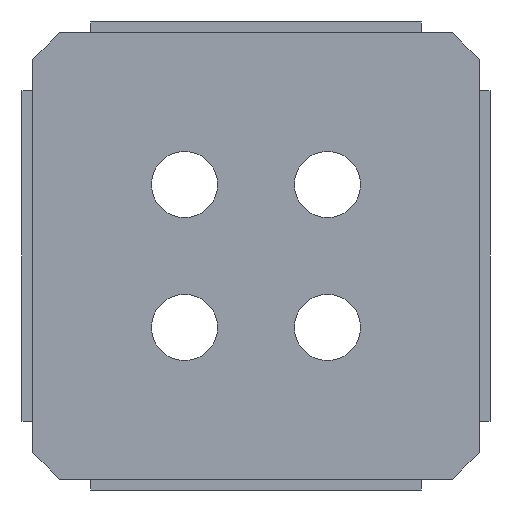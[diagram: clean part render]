
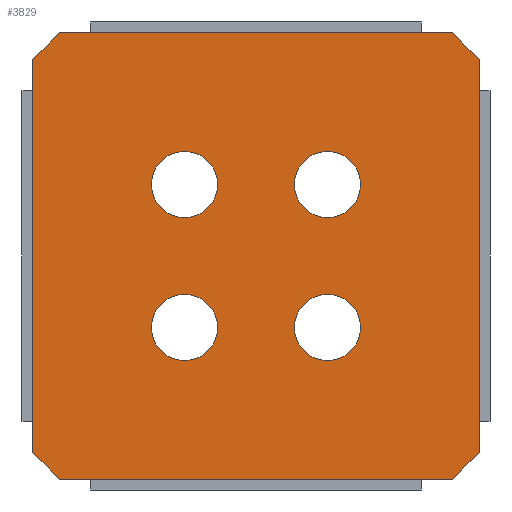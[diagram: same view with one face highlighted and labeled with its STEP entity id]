
A CAD part, front view. The second image highlights one B-rep face of the part: STEP entity #3829.
In plain terms, the highlighted planar face has unit normal (0, -1, 0).
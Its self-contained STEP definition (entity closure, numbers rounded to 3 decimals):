
#5 = DIRECTION ( 'NONE',  ( 0., 0., -1. ) ) ;
#87 = VECTOR ( 'NONE', #4504, 1000. ) ;
#124 = EDGE_LOOP ( 'NONE', ( #2231, #1198 ) ) ;
#160 = VERTEX_POINT ( 'NONE', #5424 ) ;
#169 = FACE_BOUND ( 'NONE', #3953, .T. ) ;
#184 = CARTESIAN_POINT ( 'NONE',  ( 4., -1., 4. ) ) ;
#232 = AXIS2_PLACEMENT_3D ( 'NONE', #392, #5141, #1421 ) ;
#253 = CARTESIAN_POINT ( 'NONE',  ( -12.5, -1., -11. ) ) ;
#263 = LINE ( 'NONE', #1482, #1818 ) ;
#288 = CIRCLE ( 'NONE', #5870, 1.85 ) ;
#344 = ORIENTED_EDGE ( 'NONE', *, *, #3564, .F. ) ;
#392 = CARTESIAN_POINT ( 'NONE',  ( -4., -1., 4. ) ) ;
#477 = VERTEX_POINT ( 'NONE', #4215 ) ;
#487 = DIRECTION ( 'NONE',  ( 0., -1., 0. ) ) ;
#516 = CARTESIAN_POINT ( 'NONE',  ( 4., -1., 4. ) ) ;
#520 = CARTESIAN_POINT ( 'NONE',  ( -12.5, -1., -11. ) ) ;
#599 = CARTESIAN_POINT ( 'NONE',  ( -11., -1., -12.5 ) ) ;
#620 = ORIENTED_EDGE ( 'NONE', *, *, #4398, .F. ) ;
#638 = VECTOR ( 'NONE', #1285, 1000. ) ;
#661 = CARTESIAN_POINT ( 'NONE',  ( -4., -1., 4. ) ) ;
#684 = DIRECTION ( 'NONE',  ( 0., 0., -1. ) ) ;
#751 = ORIENTED_EDGE ( 'NONE', *, *, #5004, .F. ) ;
#790 = DIRECTION ( 'NONE',  ( 0., 0., 1. ) ) ;
#829 = EDGE_CURVE ( 'NONE', #160, #6157, #3962, .T. ) ;
#838 = ORIENTED_EDGE ( 'NONE', *, *, #6053, .T. ) ;
#882 = FACE_BOUND ( 'NONE', #124, .T. ) ;
#888 = AXIS2_PLACEMENT_3D ( 'NONE', #1916, #1004, #5682 ) ;
#1004 = DIRECTION ( 'NONE',  ( 0., -1., 0. ) ) ;
#1013 = DIRECTION ( 'NONE',  ( 0., 0., -1. ) ) ;
#1048 = VERTEX_POINT ( 'NONE', #6100 ) ;
#1057 = EDGE_CURVE ( 'NONE', #4205, #1048, #3331, .T. ) ;
#1153 = CARTESIAN_POINT ( 'NONE',  ( 11., -1., 12.5 ) ) ;
#1177 = LINE ( 'NONE', #6025, #4811 ) ;
#1198 = ORIENTED_EDGE ( 'NONE', *, *, #4188, .F. ) ;
#1285 = DIRECTION ( 'NONE',  ( 1., 0., 0. ) ) ;
#1336 = CARTESIAN_POINT ( 'NONE',  ( 4., -1., 2.15 ) ) ;
#1388 = AXIS2_PLACEMENT_3D ( 'NONE', #4111, #3214, #790 ) ;
#1421 = DIRECTION ( 'NONE',  ( 0., 0., -1. ) ) ;
#1462 = DIRECTION ( 'NONE',  ( -0.707, 0., 0.707 ) ) ;
#1482 = CARTESIAN_POINT ( 'NONE',  ( 12.5, -1., 12.5 ) ) ;
#1487 = LINE ( 'NONE', #520, #2745 ) ;
#1506 = DIRECTION ( 'NONE',  ( 0., -1., 0. ) ) ;
#1511 = VERTEX_POINT ( 'NONE', #1336 ) ;
#1538 = ORIENTED_EDGE ( 'NONE', *, *, #1903, .F. ) ;
#1552 = ORIENTED_EDGE ( 'NONE', *, *, #5754, .T. ) ;
#1651 = LINE ( 'NONE', #2601, #87 ) ;
#1695 = VERTEX_POINT ( 'NONE', #253 ) ;
#1758 = ORIENTED_EDGE ( 'NONE', *, *, #829, .T. ) ;
#1818 = VECTOR ( 'NONE', #5, 1000. ) ;
#1892 = DIRECTION ( 'NONE',  ( 0.707, 0., -0.707 ) ) ;
#1903 = EDGE_CURVE ( 'NONE', #3828, #3210, #1177, .T. ) ;
#1916 = CARTESIAN_POINT ( 'NONE',  ( 4., -1., -4. ) ) ;
#1949 = VECTOR ( 'NONE', #1462, 1000. ) ;
#1967 = EDGE_CURVE ( 'NONE', #4922, #1695, #2439, .T. ) ;
#2208 = DIRECTION ( 'NONE',  ( 0., -1., 0. ) ) ;
#2231 = ORIENTED_EDGE ( 'NONE', *, *, #4082, .F. ) ;
#2317 = LINE ( 'NONE', #3375, #1949 ) ;
#2345 = EDGE_CURVE ( 'NONE', #5253, #4935, #288, .T. ) ;
#2439 = LINE ( 'NONE', #5308, #5410 ) ;
#2522 = CARTESIAN_POINT ( 'NONE',  ( -4., -1., -5.85 ) ) ;
#2601 = CARTESIAN_POINT ( 'NONE',  ( -11., -1., 12.5 ) ) ;
#2708 = VERTEX_POINT ( 'NONE', #5811 ) ;
#2745 = VECTOR ( 'NONE', #1892, 1000. ) ;
#2827 = CARTESIAN_POINT ( 'NONE',  ( 12.5, -1., -11. ) ) ;
#2832 = CARTESIAN_POINT ( 'NONE',  ( -4., -1., 5.85 ) ) ;
#3158 = CARTESIAN_POINT ( 'NONE',  ( -4., -1., -2.15 ) ) ;
#3181 = CIRCLE ( 'NONE', #6134, 1.85 ) ;
#3210 = VERTEX_POINT ( 'NONE', #1153 ) ;
#3214 = DIRECTION ( 'NONE',  ( 0., 1., 0. ) ) ;
#3323 = CARTESIAN_POINT ( 'NONE',  ( -4., -1., -4. ) ) ;
#3329 = DIRECTION ( 'NONE',  ( 0., 0., -1. ) ) ;
#3331 = CIRCLE ( 'NONE', #232, 1.85 ) ;
#3375 = CARTESIAN_POINT ( 'NONE',  ( 11., -1., 12.5 ) ) ;
#3400 = FACE_BOUND ( 'NONE', #4206, .T. ) ;
#3434 = CARTESIAN_POINT ( 'NONE',  ( -12.5, -1., 11. ) ) ;
#3442 = DIRECTION ( 'NONE',  ( 0., -1., 0. ) ) ;
#3509 = AXIS2_PLACEMENT_3D ( 'NONE', #661, #3520, #684 ) ;
#3520 = DIRECTION ( 'NONE',  ( 0., -1., 0. ) ) ;
#3564 = EDGE_CURVE ( 'NONE', #4935, #5253, #3181, .T. ) ;
#3581 = PLANE ( 'NONE',  #1388 ) ;
#3603 = CARTESIAN_POINT ( 'NONE',  ( -11., -1., 12.5 ) ) ;
#3634 = DIRECTION ( 'NONE',  ( 0., 0., -1. ) ) ;
#3637 = EDGE_LOOP ( 'NONE', ( #751, #4541 ) ) ;
#3819 = ORIENTED_EDGE ( 'NONE', *, *, #2345, .F. ) ;
#3828 = VERTEX_POINT ( 'NONE', #3603 ) ;
#3829 = ADVANCED_FACE ( 'NONE', ( #3400, #882, #169, #5145, #5532 ), #3581, .F. ) ;
#3836 = EDGE_CURVE ( 'NONE', #4921, #160, #4340, .T. ) ;
#3953 = EDGE_LOOP ( 'NONE', ( #620, #4929 ) ) ;
#3962 = LINE ( 'NONE', #4948, #4043 ) ;
#3967 = VERTEX_POINT ( 'NONE', #5591 ) ;
#3998 = CARTESIAN_POINT ( 'NONE',  ( 12.5, -1., 11. ) ) ;
#4043 = VECTOR ( 'NONE', #4547, 1000. ) ;
#4057 = AXIS2_PLACEMENT_3D ( 'NONE', #4302, #1506, #1013 ) ;
#4082 = EDGE_CURVE ( 'NONE', #3967, #2708, #6060, .T. ) ;
#4090 = CARTESIAN_POINT ( 'NONE',  ( -12.5, -1., -12.5 ) ) ;
#4109 = EDGE_CURVE ( 'NONE', #477, #1511, #4499, .T. ) ;
#4110 = EDGE_CURVE ( 'NONE', #4562, #6157, #263, .T. ) ;
#4111 = CARTESIAN_POINT ( 'NONE',  ( -12.5, -1., 12.5 ) ) ;
#4188 = EDGE_CURVE ( 'NONE', #2708, #3967, #6056, .T. ) ;
#4205 = VERTEX_POINT ( 'NONE', #2832 ) ;
#4206 = EDGE_LOOP ( 'NONE', ( #344, #3819 ) ) ;
#4215 = CARTESIAN_POINT ( 'NONE',  ( 4., -1., 5.85 ) ) ;
#4302 = CARTESIAN_POINT ( 'NONE',  ( 4., -1., -4. ) ) ;
#4340 = LINE ( 'NONE', #4090, #638 ) ;
#4398 = EDGE_CURVE ( 'NONE', #1511, #477, #5382, .T. ) ;
#4470 = DIRECTION ( 'NONE',  ( 0., 0., -1. ) ) ;
#4499 = CIRCLE ( 'NONE', #5773, 1.85 ) ;
#4504 = DIRECTION ( 'NONE',  ( -0.707, 0., -0.707 ) ) ;
#4541 = ORIENTED_EDGE ( 'NONE', *, *, #1057, .F. ) ;
#4547 = DIRECTION ( 'NONE',  ( 0.707, 0., 0.707 ) ) ;
#4562 = VERTEX_POINT ( 'NONE', #3998 ) ;
#4614 = CARTESIAN_POINT ( 'NONE',  ( -4., -1., -4. ) ) ;
#4700 = AXIS2_PLACEMENT_3D ( 'NONE', #184, #3442, #5809 ) ;
#4811 = VECTOR ( 'NONE', #5086, 1000. ) ;
#4921 = VERTEX_POINT ( 'NONE', #599 ) ;
#4922 = VERTEX_POINT ( 'NONE', #3434 ) ;
#4929 = ORIENTED_EDGE ( 'NONE', *, *, #4109, .F. ) ;
#4935 = VERTEX_POINT ( 'NONE', #2522 ) ;
#4948 = CARTESIAN_POINT ( 'NONE',  ( 12.5, -1., -11. ) ) ;
#4950 = ORIENTED_EDGE ( 'NONE', *, *, #4110, .F. ) ;
#5004 = EDGE_CURVE ( 'NONE', #1048, #4205, #5296, .T. ) ;
#5086 = DIRECTION ( 'NONE',  ( 1., 0., 0. ) ) ;
#5141 = DIRECTION ( 'NONE',  ( 0., -1., 0. ) ) ;
#5145 = FACE_BOUND ( 'NONE', #3637, .T. ) ;
#5253 = VERTEX_POINT ( 'NONE', #3158 ) ;
#5283 = DIRECTION ( 'NONE',  ( 0., -1., 0. ) ) ;
#5286 = DIRECTION ( 'NONE',  ( 0., 0., -1. ) ) ;
#5296 = CIRCLE ( 'NONE', #3509, 1.85 ) ;
#5308 = CARTESIAN_POINT ( 'NONE',  ( -12.5, -1., 12.5 ) ) ;
#5382 = CIRCLE ( 'NONE', #4700, 1.85 ) ;
#5410 = VECTOR ( 'NONE', #5286, 1000. ) ;
#5424 = CARTESIAN_POINT ( 'NONE',  ( 11., -1., -12.5 ) ) ;
#5532 = FACE_OUTER_BOUND ( 'NONE', #5703, .T. ) ;
#5572 = ORIENTED_EDGE ( 'NONE', *, *, #1967, .T. ) ;
#5586 = ORIENTED_EDGE ( 'NONE', *, *, #3836, .T. ) ;
#5591 = CARTESIAN_POINT ( 'NONE',  ( 4., -1., -5.85 ) ) ;
#5682 = DIRECTION ( 'NONE',  ( 0., 0., -1. ) ) ;
#5703 = EDGE_LOOP ( 'NONE', ( #5586, #1758, #4950, #838, #1538, #1552, #5572, #6087 ) ) ;
#5754 = EDGE_CURVE ( 'NONE', #3828, #4922, #1651, .T. ) ;
#5773 = AXIS2_PLACEMENT_3D ( 'NONE', #516, #5283, #3329 ) ;
#5809 = DIRECTION ( 'NONE',  ( 0., 0., -1. ) ) ;
#5811 = CARTESIAN_POINT ( 'NONE',  ( 4., -1., -2.15 ) ) ;
#5870 = AXIS2_PLACEMENT_3D ( 'NONE', #4614, #2208, #3634 ) ;
#6025 = CARTESIAN_POINT ( 'NONE',  ( -12.5, -1., 12.5 ) ) ;
#6053 = EDGE_CURVE ( 'NONE', #4562, #3210, #2317, .T. ) ;
#6056 = CIRCLE ( 'NONE', #888, 1.85 ) ;
#6060 = CIRCLE ( 'NONE', #4057, 1.85 ) ;
#6087 = ORIENTED_EDGE ( 'NONE', *, *, #6122, .T. ) ;
#6100 = CARTESIAN_POINT ( 'NONE',  ( -4., -1., 2.15 ) ) ;
#6122 = EDGE_CURVE ( 'NONE', #1695, #4921, #1487, .T. ) ;
#6134 = AXIS2_PLACEMENT_3D ( 'NONE', #3323, #487, #4470 ) ;
#6157 = VERTEX_POINT ( 'NONE', #2827 ) ;
